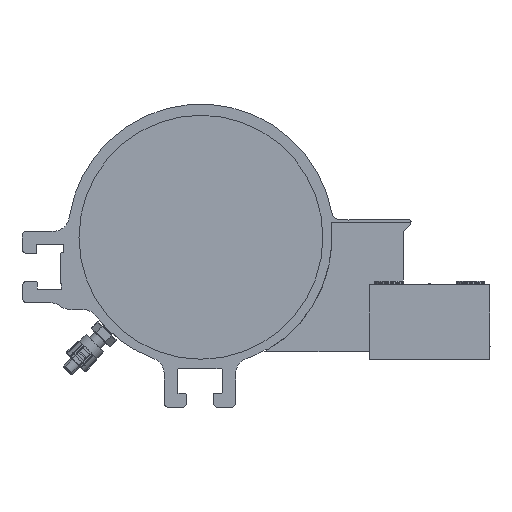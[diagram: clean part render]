
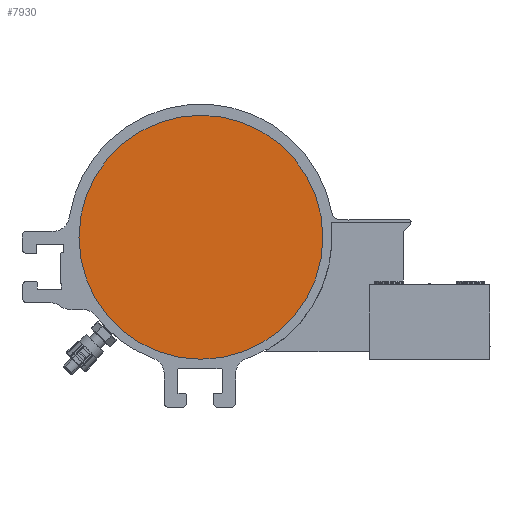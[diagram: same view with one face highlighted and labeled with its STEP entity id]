
A CAD part, left-side view. The second image highlights one B-rep face of the part: STEP entity #7930.
In plain terms, the highlighted planar face has unit normal (-1, 0, 0).
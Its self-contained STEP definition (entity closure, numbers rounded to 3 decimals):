
#7930=ADVANCED_FACE('', (#7940), #7950, .T.);
#29740=AXIS2_PLACEMENT_3D('Ax2Pl3d', #29750, #29760, #29770);
#44980=AXIS2_PLACEMENT_3D('Ax2Pl3d', #44990, #45000, #45010);
#29750=CARTESIAN_POINT('HicPkt', (-62.649,-67.388,
656.386));
#193470=CARTESIAN_POINT('', (-62.649,-104.888,
656.386));
#44990=CARTESIAN_POINT('HicPkt', (-62.649,-131.224,
660.986));
#214530=CIRCLE('Circle', #29740, 37.5);
#29760=DIRECTION('Axis', (-1.,0.,0.)
);
#29770=DIRECTION('RefDirection', (0.,
0.,-1.));
#45000=DIRECTION('Axis', (-1.,0.,0.)
);
#45010=DIRECTION('RefDirection', (0.,
0.,-1.));
#289150=EDGE_CURVE('', #289160, #289160, #214530, .T.);
#342870=EDGE_LOOP('Edge_loop', (#342880));
#7940=FACE_OUTER_BOUND('Face_outer_bound', #342870, .T.);
#342880=ORIENTED_EDGE('', *, *, #289150, .T.);
#7950=PLANE('Plane', #44980);
#289160=VERTEX_POINT('', #193470);
